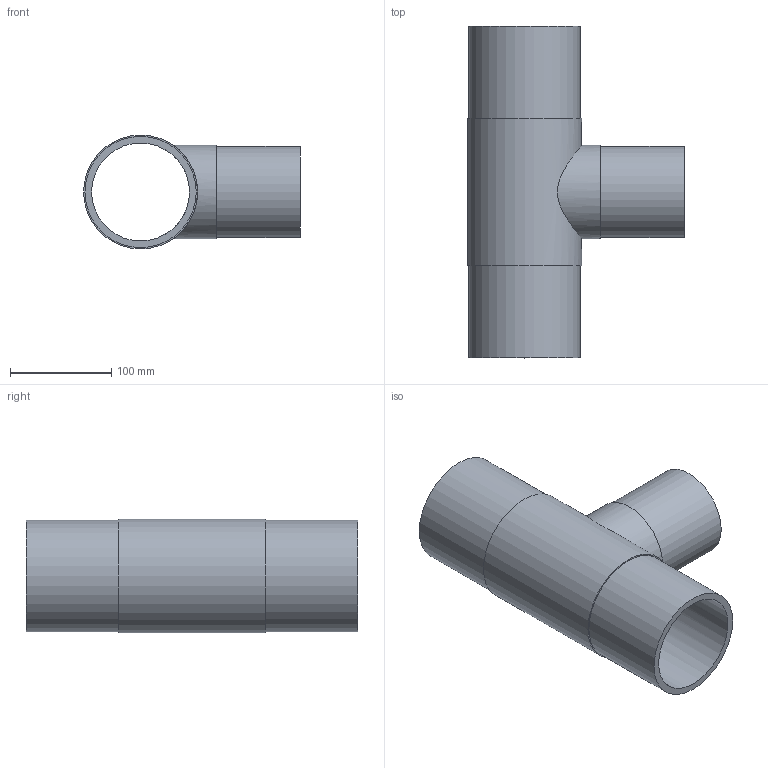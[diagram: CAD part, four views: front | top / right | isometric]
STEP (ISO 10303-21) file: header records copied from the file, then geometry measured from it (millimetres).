
FILE_DESCRIPTION(('Beschreibung'),'1');
FILE_NAME('V:/Ziel/25.20.01.063_red._SDR_17_PE100_110_090_110.STP', '2014-09-15T05:49:01',('Author'), ('Organization'), 'KCM Version 1.1.794.0', 'Kubotek KeyCreator', 'Authorization');
FILE_SCHEMA(('CONFIG_CONTROL_DESIGN'));
Length unit declared in the file: millimetre
Bounding box: 214.32 x 328 x 112.64 mm (x, y, z)
Volume: 895991.4 mm3; surface area: 270061.4 mm2
Topology: 1 solids, 1 shells, 13 faces, 40 edges, 47 vertices
Faces by surface type: cylinder 7, plane 6
Full cylindrical faces by diameter (mm): 79.2 x1, 90 x1, 92.16 x1, 96.8 x1, 110 x2, 112.64 x1
Entity records: 734 total; most frequent: CARTESIAN_POINT 311, DIRECTION 77, ORIENTED_EDGE 48, AXIS2_PLACEMENT_3D 28, EDGE_CURVE 24, VECTOR 21, LINE 21, EDGE_LOOP 21
